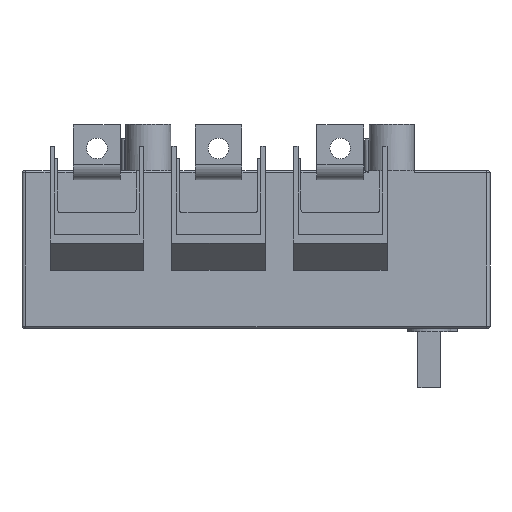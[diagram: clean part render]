
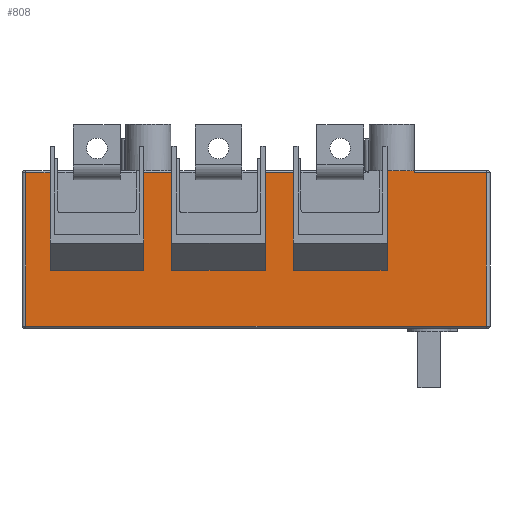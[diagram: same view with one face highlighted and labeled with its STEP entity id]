
A CAD part, front view. The second image highlights one B-rep face of the part: STEP entity #808.
In plain terms, the highlighted planar face has unit normal (0, -1, 0).
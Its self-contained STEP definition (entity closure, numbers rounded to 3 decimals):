
#299=PLANE('',#8091);
#808=ADVANCED_FACE('',(#1236),#299,.T.);
#1236=FACE_OUTER_BOUND('',#1681,.T.);
#1681=EDGE_LOOP('',(#5290,#5291,#5292,#5293,#5294,#5295,#5296,#5297,#5298,
#5299,#5300,#5301,#5302,#5303,#5304,#5305,#5306,#5307));
#2011=LINE('',#10943,#2819);
#2015=LINE('',#10951,#2823);
#2020=LINE('',#10960,#2828);
#2078=LINE('',#11087,#2886);
#2084=LINE('',#11099,#2892);
#2102=LINE('',#11140,#2910);
#2246=LINE('',#11453,#3054);
#2252=LINE('',#11465,#3060);
#2270=LINE('',#11506,#3078);
#2378=LINE('',#11910,#3186);
#2386=LINE('',#11939,#3194);
#2393=LINE('',#12009,#3201);
#2398=LINE('',#12026,#3206);
#2399=LINE('',#12028,#3207);
#2460=LINE('',#12302,#3268);
#2466=LINE('',#12314,#3274);
#2491=LINE('',#12370,#3299);
#2492=LINE('',#12371,#3300);
#2819=VECTOR('',#8787,1.);
#2823=VECTOR('',#8793,1.);
#2828=VECTOR('',#8800,1.);
#2886=VECTOR('',#8912,1.);
#2892=VECTOR('',#8920,1.);
#2910=VECTOR('',#8962,1.);
#3054=VECTOR('',#9220,1.);
#3060=VECTOR('',#9228,1.);
#3078=VECTOR('',#9270,1.);
#3186=VECTOR('',#9676,1.);
#3194=VECTOR('',#9710,1.);
#3201=VECTOR('',#9751,1.);
#3206=VECTOR('',#9774,1.);
#3207=VECTOR('',#9777,1.);
#3268=VECTOR('',#10042,1.);
#3274=VECTOR('',#10054,1.);
#3299=VECTOR('',#10129,1.);
#3300=VECTOR('',#10130,1.);
#5290=ORIENTED_EDGE('',*,*,#6541,.F.);
#5291=ORIENTED_EDGE('',*,*,#6536,.T.);
#5292=ORIENTED_EDGE('',*,*,#7203,.T.);
#5293=ORIENTED_EDGE('',*,*,#6813,.F.);
#5294=ORIENTED_EDGE('',*,*,#6792,.F.);
#5295=ORIENTED_EDGE('',*,*,#6786,.T.);
#5296=ORIENTED_EDGE('',*,*,#7017,.T.);
#5297=ORIENTED_EDGE('',*,*,#7047,.F.);
#5298=ORIENTED_EDGE('',*,*,#7037,.T.);
#5299=ORIENTED_EDGE('',*,*,#7046,.T.);
#5300=ORIENTED_EDGE('',*,*,#7001,.T.);
#5301=ORIENTED_EDGE('',*,*,#7174,.T.);
#5302=ORIENTED_EDGE('',*,*,#7167,.F.);
#5303=ORIENTED_EDGE('',*,*,#6630,.F.);
#5304=ORIENTED_EDGE('',*,*,#6609,.F.);
#5305=ORIENTED_EDGE('',*,*,#6603,.T.);
#5306=ORIENTED_EDGE('',*,*,#7204,.T.);
#5307=ORIENTED_EDGE('',*,*,#6532,.F.);
#5711=VERTEX_POINT('',#10942);
#5712=VERTEX_POINT('',#10944);
#5714=VERTEX_POINT('',#10950);
#5715=VERTEX_POINT('',#10952);
#5759=VERTEX_POINT('',#11086);
#5760=VERTEX_POINT('',#11088);
#5764=VERTEX_POINT('',#11097);
#5776=VERTEX_POINT('',#11141);
#5887=VERTEX_POINT('',#11452);
#5888=VERTEX_POINT('',#11454);
#5892=VERTEX_POINT('',#11463);
#5904=VERTEX_POINT('',#11507);
#6032=VERTEX_POINT('',#11888);
#6033=VERTEX_POINT('',#11908);
#6041=VERTEX_POINT('',#11933);
#6051=VERTEX_POINT('',#11964);
#6055=VERTEX_POINT('',#12006);
#6147=VERTEX_POINT('',#12303);
#6532=EDGE_CURVE('',#5711,#5712,#2011,.T.);
#6536=EDGE_CURVE('',#5715,#5714,#2015,.T.);
#6541=EDGE_CURVE('',#5715,#5711,#2020,.T.);
#6603=EDGE_CURVE('',#5760,#5759,#2078,.T.);
#6609=EDGE_CURVE('',#5760,#5764,#2084,.T.);
#6630=EDGE_CURVE('',#5764,#5776,#2102,.T.);
#6786=EDGE_CURVE('',#5888,#5887,#2246,.T.);
#6792=EDGE_CURVE('',#5888,#5892,#2252,.T.);
#6813=EDGE_CURVE('',#5892,#5904,#2270,.T.);
#7001=EDGE_CURVE('',#6032,#6033,#2378,.T.);
#7017=EDGE_CURVE('',#5887,#6041,#2386,.T.);
#7037=EDGE_CURVE('',#6055,#6051,#2393,.T.);
#7046=EDGE_CURVE('',#6051,#6032,#2398,.T.);
#7047=EDGE_CURVE('',#6055,#6041,#2399,.T.);
#7167=EDGE_CURVE('',#5776,#6147,#2460,.T.);
#7174=EDGE_CURVE('',#6033,#6147,#2466,.T.);
#7203=EDGE_CURVE('',#5714,#5904,#2491,.T.);
#7204=EDGE_CURVE('',#5759,#5712,#2492,.T.);
#8091=AXIS2_PLACEMENT_3D('',#12372,#10131,#10132);
#8787=DIRECTION('',(0.,0.,1.));
#8793=DIRECTION('',(0.,0.,1.));
#8800=DIRECTION('',(1.,0.,0.));
#8912=DIRECTION('',(0.,0.,1.));
#8920=DIRECTION('',(1.,0.,0.));
#8962=DIRECTION('',(0.,0.,1.));
#9220=DIRECTION('',(0.,0.,1.));
#9228=DIRECTION('',(1.,0.,0.));
#9270=DIRECTION('',(0.,0.,1.));
#9676=DIRECTION('',(-1.,0.,0.));
#9710=DIRECTION('',(-1.,0.,0.));
#9751=DIRECTION('',(1.,0.,0.));
#9774=DIRECTION('',(0.,0.,1.));
#9777=DIRECTION('',(0.,0.,1.));
#10042=DIRECTION('',(1.,0.,0.));
#10054=DIRECTION('',(0.,0.,1.));
#10129=DIRECTION('',(-1.,0.,0.));
#10130=DIRECTION('',(-1.,0.,0.));
#10131=DIRECTION('',(0.,-1.,0.));
#10132=DIRECTION('',(1.,0.,0.));
#10942=CARTESIAN_POINT('',(-67.5,-52.5,-53.));
#10943=CARTESIAN_POINT('',(-67.5,-52.5,-53.));
#10944=CARTESIAN_POINT('',(-67.5,-52.5,-1.));
#10950=CARTESIAN_POINT('',(-117.5,-52.5,-1.));
#10951=CARTESIAN_POINT('',(-117.5,-52.5,-53.));
#10952=CARTESIAN_POINT('',(-117.5,-52.5,-53.));
#10960=CARTESIAN_POINT('',(-117.5,-52.5,-53.));
#11086=CARTESIAN_POINT('',(-52.5,-52.5,-1.));
#11087=CARTESIAN_POINT('',(-52.5,-52.5,-53.));
#11088=CARTESIAN_POINT('',(-52.5,-52.5,-53.));
#11097=CARTESIAN_POINT('',(-2.5,-52.5,-53.));
#11099=CARTESIAN_POINT('',(-52.5,-52.5,-53.));
#11140=CARTESIAN_POINT('',(-2.5,-52.5,-53.));
#11141=CARTESIAN_POINT('',(-2.5,-52.5,0.));
#11452=CARTESIAN_POINT('',(-182.5,-52.5,-1.));
#11453=CARTESIAN_POINT('',(-182.5,-52.5,-53.));
#11454=CARTESIAN_POINT('',(-182.5,-52.5,-53.));
#11463=CARTESIAN_POINT('',(-132.5,-52.5,-53.));
#11465=CARTESIAN_POINT('',(-182.5,-52.5,-53.));
#11506=CARTESIAN_POINT('',(-132.5,-52.5,-53.));
#11507=CARTESIAN_POINT('',(-132.5,-52.5,-1.));
#11888=CARTESIAN_POINT('',(50.5,-52.5,-1.));
#11908=CARTESIAN_POINT('',(12.,-52.5,-1.));
#11910=CARTESIAN_POINT('',(12.,-52.5,-1.));
#11933=CARTESIAN_POINT('',(-195.5,-52.5,-1.));
#11939=CARTESIAN_POINT('',(-195.5,-52.5,-1.));
#11964=CARTESIAN_POINT('',(50.5,-52.5,-83.));
#12006=CARTESIAN_POINT('',(-195.5,-52.5,-83.));
#12009=CARTESIAN_POINT('',(-12.,-52.5,-83.));
#12026=CARTESIAN_POINT('',(50.5,-52.5,-84.));
#12028=CARTESIAN_POINT('',(-195.5,-52.5,-84.));
#12302=CARTESIAN_POINT('',(50.5,-52.5,0.));
#12303=CARTESIAN_POINT('',(12.,-52.5,0.));
#12314=CARTESIAN_POINT('',(12.,-52.5,4.));
#12370=CARTESIAN_POINT('',(-195.5,-52.5,-1.));
#12371=CARTESIAN_POINT('',(-195.5,-52.5,-1.));
#12372=CARTESIAN_POINT('',(-12.,-52.5,4.));
